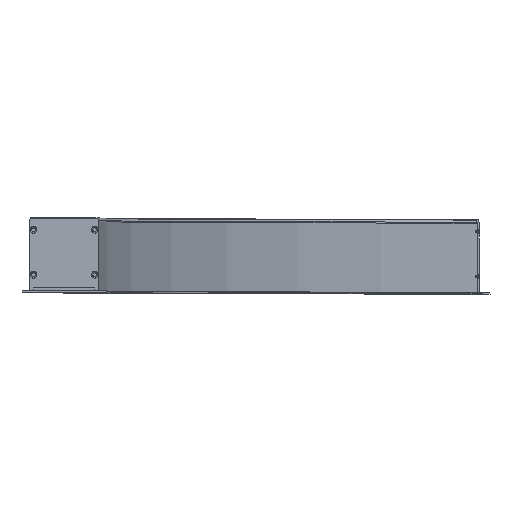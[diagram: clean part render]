
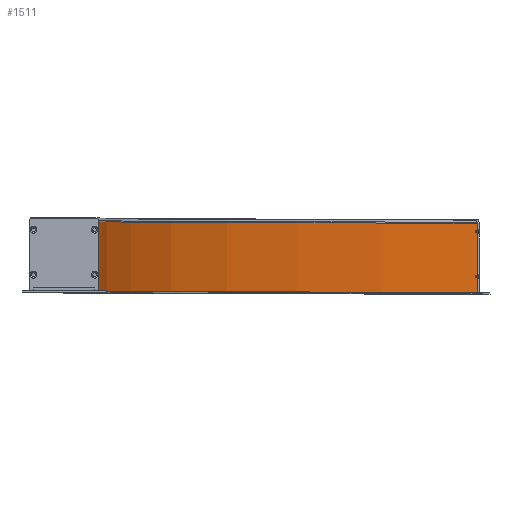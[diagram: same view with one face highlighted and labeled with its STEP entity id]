
A CAD part, top view. The second image highlights one B-rep face of the part: STEP entity #1511.
In plain terms, the highlighted conical face has half-angle 0.009 degrees and reference radius 1411.9 mm.
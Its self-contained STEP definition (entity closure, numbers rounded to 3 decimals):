
#28 = CONICAL_SURFACE ( 'NONE', #716, 1411.9, 0. ) ;
#29 = LINE ( 'NONE', #34, #2376 ) ;
#34 = CARTESIAN_POINT ( 'NONE',  ( 38.088, 77.428, 0. ) ) ;
#50 = DIRECTION ( 'NONE',  ( 0., 0., 1. ) ) ;
#142 = CARTESIAN_POINT ( 'NONE',  ( 1450., 1.806, 0. ) ) ;
#150 = AXIS2_PLACEMENT_3D ( 'NONE', #1160, #2176, #558 ) ;
#185 = VECTOR ( 'NONE', #2045, 1000. ) ;
#279 = DIRECTION ( 'NONE',  ( 0., 1., 0. ) ) ;
#499 = CARTESIAN_POINT ( 'NONE',  ( 38.088, 77.428, 0. ) ) ;
#558 = DIRECTION ( 'NONE',  ( -1., 0., 0. ) ) ;
#593 = CARTESIAN_POINT ( 'NONE',  ( 451.636, 1.806, -998.364 ) ) ;
#607 = ORIENTED_EDGE ( 'NONE', *, *, #2148, .T. ) ;
#705 = CARTESIAN_POINT ( 'NONE',  ( 451.628, 77.428, -998.372 ) ) ;
#716 = AXIS2_PLACEMENT_3D ( 'NONE', #142, #279, #50 ) ;
#733 = LINE ( 'NONE', #1744, #185 ) ;
#787 = FACE_OUTER_BOUND ( 'NONE', #1436, .T. ) ;
#956 = AXIS2_PLACEMENT_3D ( 'NONE', #1092, #1105, #1276 ) ;
#1092 = CARTESIAN_POINT ( 'NONE',  ( 1450., 77.428, 0. ) ) ;
#1105 = DIRECTION ( 'NONE',  ( 0., -1., 0. ) ) ;
#1160 = CARTESIAN_POINT ( 'NONE',  ( 1450., 1.806, 0. ) ) ;
#1276 = DIRECTION ( 'NONE',  ( -1., 0., 0. ) ) ;
#1292 = ORIENTED_EDGE ( 'NONE', *, *, #2266, .F. ) ;
#1335 = VERTEX_POINT ( 'NONE', #1715 ) ;
#1374 = EDGE_CURVE ( 'NONE', #1335, #1451, #29, .T. ) ;
#1436 = EDGE_LOOP ( 'NONE', ( #1292, #1827, #607, #1702 ) ) ;
#1451 = VERTEX_POINT ( 'NONE', #499 ) ;
#1511 = ADVANCED_FACE ( 'NONE', ( #787 ), #28, .F. ) ;
#1687 = CIRCLE ( 'NONE', #150, 1411.9 ) ;
#1702 = ORIENTED_EDGE ( 'NONE', *, *, #2358, .T. ) ;
#1715 = CARTESIAN_POINT ( 'NONE',  ( 38.1, 1.806, 0. ) ) ;
#1744 = CARTESIAN_POINT ( 'NONE',  ( 451.628, 77.428, -998.372 ) ) ;
#1769 = VERTEX_POINT ( 'NONE', #593 ) ;
#1827 = ORIENTED_EDGE ( 'NONE', *, *, #1374, .F. ) ;
#1883 = CIRCLE ( 'NONE', #956, 1411.912 ) ;
#2045 = DIRECTION ( 'NONE',  ( 0., 1., 0. ) ) ;
#2148 = EDGE_CURVE ( 'NONE', #1335, #1769, #1687, .T. ) ;
#2176 = DIRECTION ( 'NONE',  ( 0., -1., 0. ) ) ;
#2198 = VERTEX_POINT ( 'NONE', #705 ) ;
#2266 = EDGE_CURVE ( 'NONE', #1451, #2198, #1883, .T. ) ;
#2351 = DIRECTION ( 'NONE',  ( 0., 1., 0. ) ) ;
#2358 = EDGE_CURVE ( 'NONE', #1769, #2198, #733, .T. ) ;
#2376 = VECTOR ( 'NONE', #2351, 1000. ) ;
